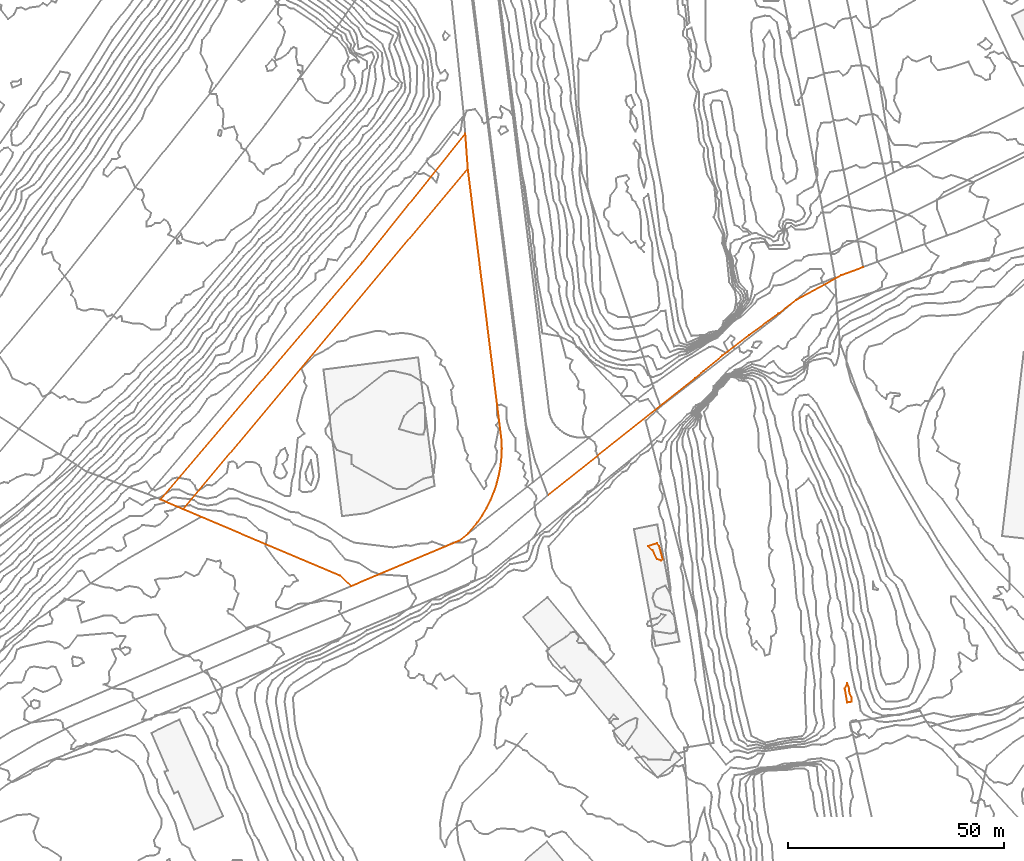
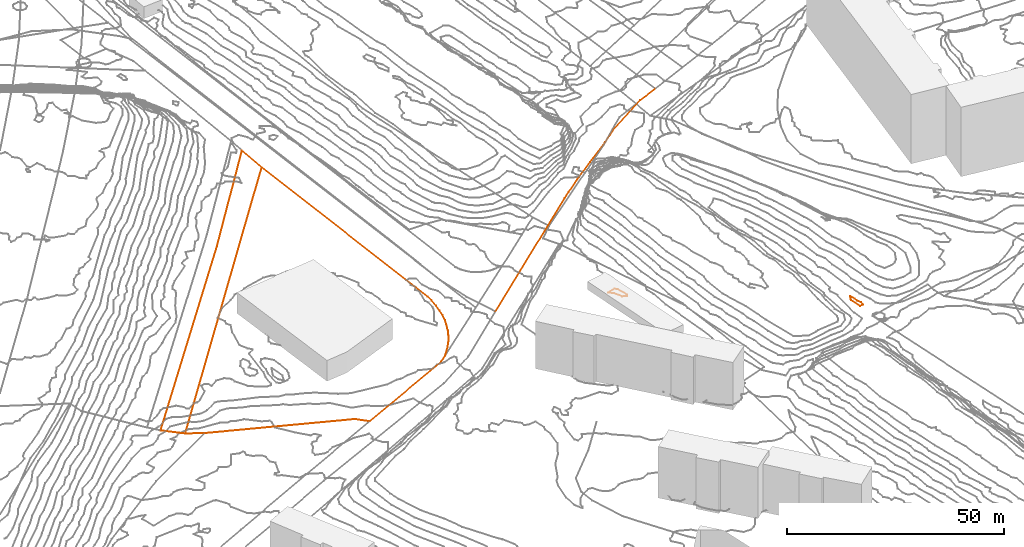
# Not in any storey, part 153 of 419: 5 proxies.
"""IFC2X3 model written with IfcOpenShell, lengths in metres."""

from ifc_helpers import new_model, entity, si_unit, frame, origin_with_axes, place, context, subcontext, project, element, save


model = new_model("IFC2X3")

# Units and contexts
model_context = context("Model", 3, precision=1e-05, world=origin_with_axes())
body_context = subcontext(model_context, "Body", "Model", "MODEL_VIEW")
ifc_project = project(units=[si_unit("AREAUNIT", "SQUARE_METRE"), si_unit("LENGTHUNIT", "METRE")], contexts=[model_context])

# Proxies
proxy_1_placement = place(None, frame((148.8920204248, 693.6976909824, 18.6), z_axis=(0.0, 0.0, 1.0), x_axis=(1.0, 0.0, 0.0)))
element("IfcBuildingElementProxy", 1, at=proxy_1_placement, Name="Route 28", ObjectType="NOTDEFINED", context=body_context, shape_type="GeometricCurveSet", body=[
    entity("IfcGeometricCurveSet", [entity("IfcPolyline", [entity("IfcCartesianPoint", [0.0, 0.0, 0.0]), entity("IfcCartesianPoint", [34.0, 27.0, 3.6]), entity("IfcCartesianPoint", [36.0, 28.7000000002, 3.5]), entity("IfcCartesianPoint", [40.2999999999, 32.2000000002, 3.4]), entity("IfcCartesianPoint", [46.5, 37.0, 3.3]), entity("IfcCartesianPoint", [53.2, 41.9000000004, 3.3]), entity("IfcCartesianPoint", [53.5, 42.1000000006, 3.3]), entity("IfcCartesianPoint", [57.3999999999, 45.1000000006, 3.7]), entity("IfcCartesianPoint", [67.7999999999, 50.7999999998, 4.8]), entity("IfcCartesianPoint", [72.8999999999, 52.7000000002, 5.1])])]),
])
proxy_2_placement = place(None, frame((64.5320204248, 690.4076909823, 15.8532183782), z_axis=(0.0, 0.0, 1.0), x_axis=(1.0, 0.0, 0.0)))
element("IfcBuildingElementProxy", 2, at=proxy_2_placement, Name="Cadastre 385", ObjectType="NOTDEFINED", context=body_context, shape_type="GeometricCurveSet", body=[
    entity("IfcGeometricCurveSet", [entity("IfcPolyline", [entity("IfcCartesianPoint", [36.24, -15.3799999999, 0.6936453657]), entity("IfcCartesianPoint", [4.13, -1.7699999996, -0.2707866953]), entity("IfcCartesianPoint", [0.0, 0.0, 0.0]), entity("IfcCartesianPoint", [65.8199999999, 78.7800000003, 3.9558621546]), entity("IfcCartesianPoint", [73.63, 15.8600000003, 3.0173453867]), entity("IfcCartesianPoint", [73.6899999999, 14.04, 2.9867567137]), entity("IfcCartesianPoint", [73.61, 12.0, 2.9235522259]), entity("IfcCartesianPoint", [73.37, 9.96, 2.8702160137]), entity("IfcCartesianPoint", [73.0, 7.9500000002, 2.824789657]), entity("IfcCartesianPoint", [72.5, 5.96, 2.8398051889]), entity("IfcCartesianPoint", [71.85, 4.0200000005, 2.7819599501]), entity("IfcCartesianPoint", [71.08, 2.1299999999, 2.6668175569]), entity("IfcCartesianPoint", [70.1599999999, 0.3000000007, 2.7320215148]), entity("IfcCartesianPoint", [69.13, -1.4699999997, 2.6898379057]), entity("IfcCartesianPoint", [67.97, -3.1499999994, 2.5690460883]), entity("IfcCartesianPoint", [65.84, -5.6599999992, 2.3169014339]), entity("IfcCartesianPoint", [63.88, -7.2199999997, 2.1544932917]), entity("IfcCartesianPoint", [38.7799999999, -17.7999999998, 0.6553654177]), entity("IfcCartesianPoint", [36.24, -15.3799999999, 0.6936453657])])]),
])
proxy_3_placement = place(None, frame((59.2720204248, 692.6376909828, 17.20896037), z_axis=(0.0, 0.0, 1.0), x_axis=(1.0, 0.0, 0.0)))
element("IfcBuildingElementProxy", 3, at=proxy_3_placement, Name="Cadastre 389", ObjectType="NOTDEFINED", context=body_context, shape_type="GeometricCurveSet", body=[
    entity("IfcGeometricCurveSet", [entity("IfcPolyline", [entity("IfcCartesianPoint", [5.26, -2.2300000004, -1.3557419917]), entity("IfcCartesianPoint", [0.0, 0.0, 0.0]), entity("IfcCartesianPoint", [46.65, 54.79, 2.2114367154]), entity("IfcCartesianPoint", [70.49, 84.6200000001, 2.6545682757]), entity("IfcCartesianPoint", [71.08, 76.5499999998, 2.6001201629]), entity("IfcCartesianPoint", [5.26, -2.2300000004, -1.3557419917])])]),
])
proxy_4_placement = place(None, frame((172.0920004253, 681.8976909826, 23.0), z_axis=(0.0, 0.0, 1.0), x_axis=(1.0, 0.0, 0.0)))
element("IfcBuildingElementProxy", 4, at=proxy_4_placement, Name="Contour 23.0 m", ObjectType="NOTDEFINED", context=body_context, shape_type="GeometricCurveSet", body=[
    entity("IfcGeometricCurveSet", [entity("IfcPolyline", [entity("IfcCartesianPoint", [3.3333533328, -3.0, 0.0]), entity("IfcCartesianPoint", [3.0000199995, -3.4000000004, 0.0]), entity("IfcCartesianPoint", [2.0000199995, -3.0000199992, 0.0]), entity("IfcCartesianPoint", [0.9999950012, -1.0, 0.0]), entity("IfcCartesianPoint", [0.0, 0.0, 0.0]), entity("IfcCartesianPoint", [2.0000199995, 0.6428610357, 0.0]), entity("IfcCartesianPoint", [2.5000255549, 0.0, 0.0]), entity("IfcCartesianPoint", [3.3333533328, -3.0, 0.0])])]),
])
proxy_5_placement = place(None, frame((217.5268037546, 648.8976909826, 25.0), z_axis=(0.0, 0.0, 1.0), x_axis=(1.0, 0.0, 0.0)))
element("IfcBuildingElementProxy", 5, at=proxy_5_placement, Name="Contour 25.0 m", ObjectType="NOTDEFINED", context=body_context, shape_type="GeometricCurveSet", body=[
    entity("IfcGeometricCurveSet", [entity("IfcPolyline", [entity("IfcCartesianPoint", [0.5652166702, -3.1666719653, 0.0]), entity("IfcCartesianPoint", [1.5652166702, -2.9999500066, 0.0]), entity("IfcCartesianPoint", [1.5959866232, -2.0, 0.0]), entity("IfcCartesianPoint", [1.0466976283, -1.0, 0.0]), entity("IfcCartesianPoint", [1.0379433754, 0.0, 0.0]), entity("IfcCartesianPoint", [0.5652166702, 1.3333290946, 0.0]), entity("IfcCartesianPoint", [0.0, 0.0, 0.0]), entity("IfcCartesianPoint", [0.5652166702, -3.1666719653, 0.0])])]),
])

save(model, "model.ifc")
